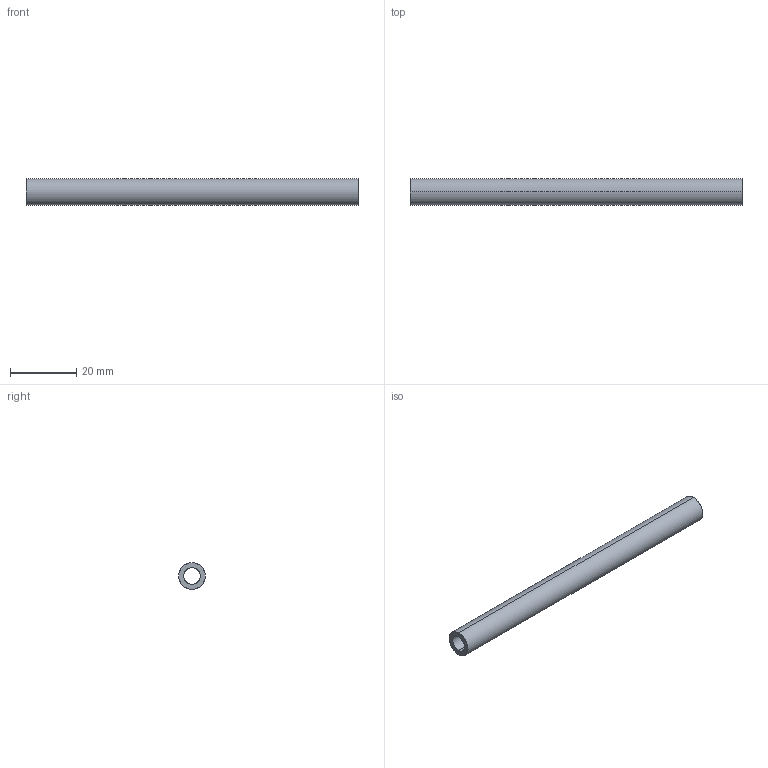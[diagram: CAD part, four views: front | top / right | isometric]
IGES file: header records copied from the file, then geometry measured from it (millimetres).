
Start section: SolidWorks IGES file using analytic representation for surfaces
Global section: file name: C:\Users\Toshiba\Desktop\100P-8-5.IGS; native system: SolidWorks 2014; preprocessor: SolidWorks 2014; author: Toshiba; date: 160308.163437; units: millimetre
Bounding box: 100 x 8 x 8 mm (x, y, z)
Surface area: 4145.3 mm2 (no closed solid volume)
Topology: 0 solids, 0 shells, 6 faces, 144 edges, 144 vertices
Faces by surface type: revolution 4, bspline 2
